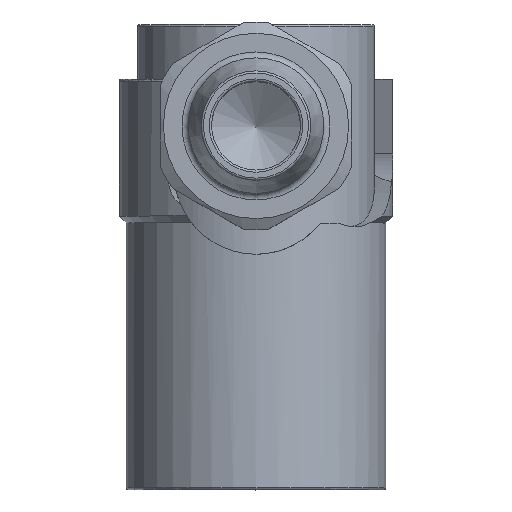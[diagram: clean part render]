
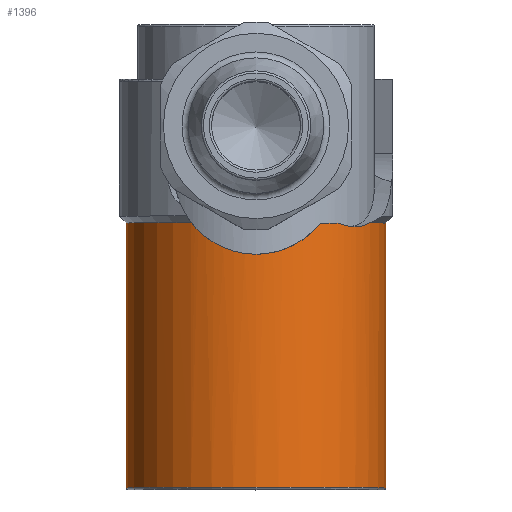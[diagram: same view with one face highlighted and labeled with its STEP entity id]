
A CAD part, top view. The second image highlights one B-rep face of the part: STEP entity #1396.
In plain terms, the highlighted cylindrical face has radius 15.062 mm (diameter 30.124 mm), a full revolution.
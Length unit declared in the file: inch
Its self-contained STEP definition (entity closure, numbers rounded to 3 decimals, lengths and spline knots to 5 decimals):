
#70=B_SPLINE_CURVE_WITH_KNOTS('',3,(#2414,#2415,#2416,#2417,#2418,#2419),
 .UNSPECIFIED.,.F.,.F.,(4,2,4),(4.16968,4.46118,4.73993),
 .UNSPECIFIED.);
#78=B_SPLINE_CURVE_WITH_KNOTS('',3,(#2489,#2490,#2491,#2492,#2493,#2494,
#2495,#2496),.UNSPECIFIED.,.F.,.F.,(4,2,2,4),(1.4871,1.85731,
2.22752,2.3465),.UNSPECIFIED.);
#79=B_SPLINE_CURVE_WITH_KNOTS('',3,(#2497,#2498,#2499,#2500,#2501,#2502,
#2503,#2504),.UNSPECIFIED.,.F.,.F.,(4,2,2,4),(0.6329,0.74668,
1.11689,1.4871),.UNSPECIFIED.);
#104=LINE('',#2488,#155);
#155=VECTOR('',#1863,0.593);
#201=CYLINDRICAL_SURFACE('',#1558,0.593);
#281=FACE_OUTER_BOUND('',#363,.T.);
#363=EDGE_LOOP('',(#1052,#1053,#1054,#1055,#1056,#1057,#1058,#1059,#1060));
#465=CIRCLE('',#1552,0.593);
#468=CIRCLE('',#1557,0.593);
#469=CIRCLE('',#1559,0.593);
#470=CIRCLE('',#1560,0.593);
#593=VERTEX_POINT('',#2411);
#594=VERTEX_POINT('',#2413);
#598=VERTEX_POINT('',#2441);
#605=VERTEX_POINT('',#2476);
#606=VERTEX_POINT('',#2483);
#607=VERTEX_POINT('',#2484);
#608=VERTEX_POINT('',#2487);
#760=EDGE_CURVE('',#594,#593,#70,.T.);
#766=EDGE_CURVE('',#593,#598,#465,.T.);
#774=EDGE_CURVE('',#605,#594,#468,.T.);
#776=EDGE_CURVE('',#606,#607,#469,.T.);
#777=EDGE_CURVE('',#607,#606,#470,.T.);
#778=EDGE_CURVE('',#607,#608,#104,.T.);
#779=EDGE_CURVE('',#608,#605,#78,.T.);
#780=EDGE_CURVE('',#598,#608,#79,.T.);
#1052=ORIENTED_EDGE('',*,*,#776,.F.);
#1053=ORIENTED_EDGE('',*,*,#777,.F.);
#1054=ORIENTED_EDGE('',*,*,#778,.T.);
#1055=ORIENTED_EDGE('',*,*,#779,.T.);
#1056=ORIENTED_EDGE('',*,*,#774,.T.);
#1057=ORIENTED_EDGE('',*,*,#760,.T.);
#1058=ORIENTED_EDGE('',*,*,#766,.T.);
#1059=ORIENTED_EDGE('',*,*,#780,.T.);
#1060=ORIENTED_EDGE('',*,*,#778,.F.);
#1396=ADVANCED_FACE('',(#281),#201,.T.);
#1552=AXIS2_PLACEMENT_3D('',#2443,#1843,#1844);
#1557=AXIS2_PLACEMENT_3D('',#2477,#1855,#1856);
#1558=AXIS2_PLACEMENT_3D('',#2482,#1857,#1858);
#1559=AXIS2_PLACEMENT_3D('',#2485,#1859,#1860);
#1560=AXIS2_PLACEMENT_3D('',#2486,#1861,#1862);
#1843=DIRECTION('center_axis',(0.,-1.,0.));
#1844=DIRECTION('ref_axis',(0.,0.,-1.));
#1855=DIRECTION('center_axis',(0.,-1.,0.));
#1856=DIRECTION('ref_axis',(1.,0.,0.));
#1857=DIRECTION('center_axis',(0.,-1.,0.));
#1858=DIRECTION('ref_axis',(0.,0.,-1.));
#1859=DIRECTION('center_axis',(0.,-1.,0.));
#1860=DIRECTION('ref_axis',(0.,0.,1.));
#1861=DIRECTION('center_axis',(0.,-1.,0.));
#1862=DIRECTION('ref_axis',(0.,0.,1.));
#1863=DIRECTION('',(0.,1.,0.));
#2411=CARTESIAN_POINT('',(0.37498,1.21693,0.45939));
#2413=CARTESIAN_POINT('',(0.51973,1.2185,0.28554));
#2414=CARTESIAN_POINT('Ctrl Pts',(0.51973,1.2185,0.28554));
#2415=CARTESIAN_POINT('Ctrl Pts',(0.50128,1.20632,0.31912));
#2416=CARTESIAN_POINT('Ctrl Pts',(0.4787,1.20024,0.35207));
#2417=CARTESIAN_POINT('Ctrl Pts',(0.43058,1.20024,0.40938));
#2418=CARTESIAN_POINT('Ctrl Pts',(0.40345,1.20579,0.43615));
#2419=CARTESIAN_POINT('Ctrl Pts',(0.37498,1.21693,0.45939));
#2441=CARTESIAN_POINT('',(0.29378,1.21693,0.51512));
#2443=CARTESIAN_POINT('Origin',(0.,1.21693,0.));
#2476=CARTESIAN_POINT('',(-0.29501,1.2185,0.51441));
#2477=CARTESIAN_POINT('Origin',(0.,1.2185,0.));
#2482=CARTESIAN_POINT('Origin',(0.,0.60925,0.));
#2483=CARTESIAN_POINT('',(0.,0.01,-0.593));
#2484=CARTESIAN_POINT('',(0.,0.01,0.593));
#2485=CARTESIAN_POINT('Origin',(0.,0.01,0.));
#2486=CARTESIAN_POINT('Origin',(0.,0.01,0.));
#2487=CARTESIAN_POINT('',(0.,1.075,0.593));
#2488=CARTESIAN_POINT('',(0.,0.60925,0.593));
#2489=CARTESIAN_POINT('Ctrl Pts',(0.,1.075,0.593));
#2490=CARTESIAN_POINT('Ctrl Pts',(-0.04858,1.075,0.593));
#2491=CARTESIAN_POINT('Ctrl Pts',(-0.09948,1.085,0.58652));
#2492=CARTESIAN_POINT('Ctrl Pts',(-0.19154,1.12376,0.56322));
#2493=CARTESIAN_POINT('Ctrl Pts',(-0.23278,1.15245,0.5466));
#2494=CARTESIAN_POINT('Ctrl Pts',(-0.27557,1.19524,0.52521));
#2495=CARTESIAN_POINT('Ctrl Pts',(-0.2856,1.2065,0.51981));
#2496=CARTESIAN_POINT('Ctrl Pts',(-0.29501,1.2185,0.51441));
#2497=CARTESIAN_POINT('Ctrl Pts',(0.29378,1.21693,0.51512));
#2498=CARTESIAN_POINT('Ctrl Pts',(0.28472,1.20552,0.52028));
#2499=CARTESIAN_POINT('Ctrl Pts',(0.27512,1.19479,0.52543));
#2500=CARTESIAN_POINT('Ctrl Pts',(0.23278,1.15245,0.5466));
#2501=CARTESIAN_POINT('Ctrl Pts',(0.19154,1.12376,0.56322));
#2502=CARTESIAN_POINT('Ctrl Pts',(0.09948,1.085,0.58652));
#2503=CARTESIAN_POINT('Ctrl Pts',(0.04858,1.075,0.593));
#2504=CARTESIAN_POINT('Ctrl Pts',(0.,1.075,0.593));
